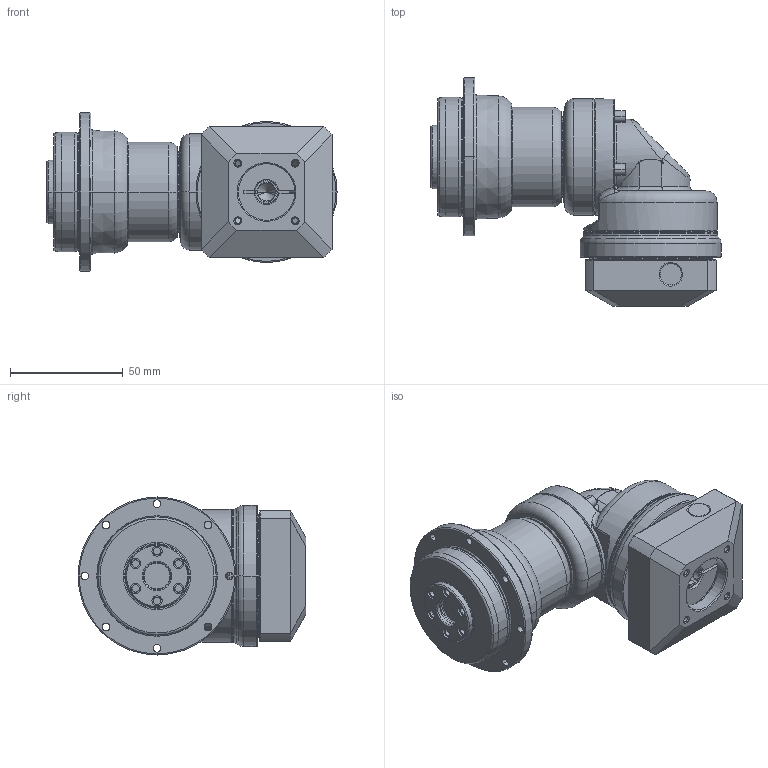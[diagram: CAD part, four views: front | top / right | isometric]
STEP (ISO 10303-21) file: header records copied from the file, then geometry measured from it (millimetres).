
FILE_DESCRIPTION((''),'2;1');
FILE_NAME('PDR053_2ST_8-P0411100101_ASM','2016-06-06T',('d01943'),(''),'PRO/ENGINEER BY PARAMETRIC TECHNOLOGY CORPORATION, 2008410','PRO/ENGINEER BY PARAMETRIC TECHNOLOGY CORPORATION, 2008410','');
FILE_SCHEMA(('CONFIG_CONTROL_DESIGN'));
Length unit declared in the file: millimetre
Products named in the file (10): P1355100001; P0367100001; P0275100001; P1349100001; P1017100001; P1350100001; P0411100101; P0503100005; P0713100001; PDR053_2ST_8-P0411100101_ASM
Assembly tree (9 placements, depth 2):
  PDR053_2ST_8-P0411100101_ASM
    P1355100001
    P0367100001
    P0275100001
    P1349100001
    P1017100001
    P1350100001
    P0411100101
    P0503100005
    P0713100001
Bounding box: 128.55 x 101 x 70 mm (x, y, z)
Volume: 285675.5 mm3; surface area: 73890.1 mm2
Topology: 9 solids, 9 shells, 510 faces, 1165 edges, 692 vertices
Faces by surface type: cylinder 171, cone 132, torus 90, plane 86, bspline 31
Entity records: 17284 total; most frequent: CARTESIAN_POINT 5554, DIRECTION 2594, ORIENTED_EDGE 2286, EDGE_CURVE 1143, AXIS2_PLACEMENT_3D 1116, VERTEX_POINT 692, CIRCLE 618, EDGE_LOOP 599
